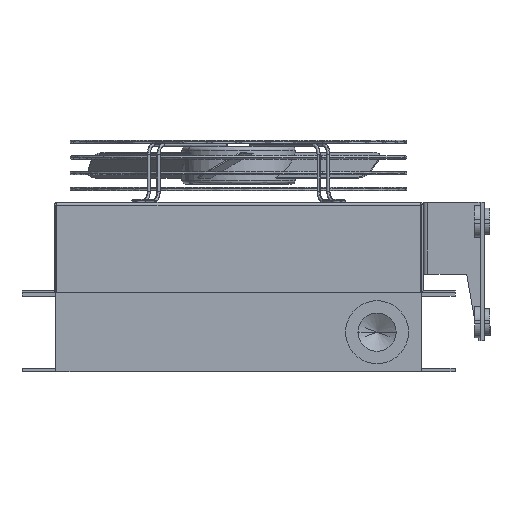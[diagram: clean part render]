
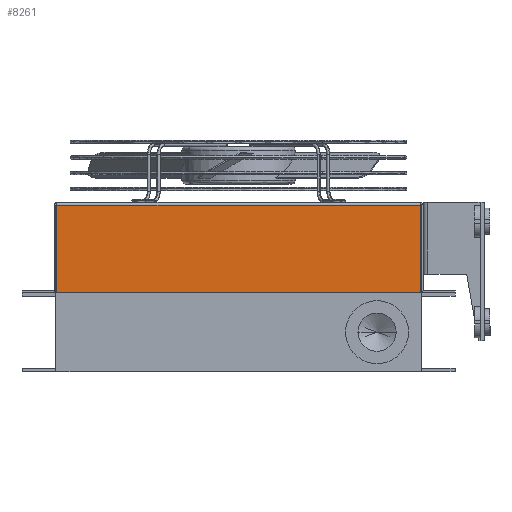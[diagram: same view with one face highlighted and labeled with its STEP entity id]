
A CAD part, left-side view. The second image highlights one B-rep face of the part: STEP entity #8261.
In plain terms, the highlighted planar face has unit normal (-1, 0, 0) as drawn and (1, 0, 0) by its records, which use the part's own axes.
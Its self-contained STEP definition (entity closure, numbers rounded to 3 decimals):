
#655 = ORIENTED_EDGE ( 'NONE', *, *, #14119, .F. ) ;
#1333 = CARTESIAN_POINT ( 'NONE',  ( 156.5, -144.263, 71.5 ) ) ;
#1609 = CARTESIAN_POINT ( 'NONE',  ( 156.5, 144.263, 1.5 ) ) ;
#2672 = EDGE_CURVE ( 'NONE', #10552, #18492, #12736, .T. ) ;
#3004 = DIRECTION ( 'NONE',  ( 0., 0., -1. ) ) ;
#3208 = FACE_OUTER_BOUND ( 'NONE', #9797, .T. ) ;
#4048 = CARTESIAN_POINT ( 'NONE',  ( 156.5, 144.263, 71.5 ) ) ;
#4624 = DIRECTION ( 'NONE',  ( 0., 0., -1. ) ) ;
#6303 = DIRECTION ( 'NONE',  ( 0., -1., 0. ) ) ;
#6880 = VECTOR ( 'NONE', #8574, 1000. ) ;
#7562 = LINE ( 'NONE', #7911, #11131 ) ;
#7911 = CARTESIAN_POINT ( 'NONE',  ( 156.5, 144.263, 2.237 ) ) ;
#8261 = ADVANCED_FACE ( 'NONE', ( #3208 ), #13495, .T. ) ;
#8574 = DIRECTION ( 'NONE',  ( 0., 1., 0. ) ) ;
#8992 = DIRECTION ( 'NONE',  ( 1., 0., 0. ) ) ;
#9080 = EDGE_CURVE ( 'NONE', #18492, #11693, #12964, .T. ) ;
#9197 = VECTOR ( 'NONE', #4624, 1000. ) ;
#9684 = VERTEX_POINT ( 'NONE', #12959 ) ;
#9797 = EDGE_LOOP ( 'NONE', ( #18284, #18277, #11257, #655 ) ) ;
#10552 = VERTEX_POINT ( 'NONE', #14780 ) ;
#11131 = VECTOR ( 'NONE', #6303, 1000. ) ;
#11257 = ORIENTED_EDGE ( 'NONE', *, *, #2672, .F. ) ;
#11693 = VERTEX_POINT ( 'NONE', #4048 ) ;
#12736 = LINE ( 'NONE', #19111, #13419 ) ;
#12959 = CARTESIAN_POINT ( 'NONE',  ( 156.5, 144.263, 2.237 ) ) ;
#12964 = LINE ( 'NONE', #15699, #6880 ) ;
#13419 = VECTOR ( 'NONE', #14565, 1000. ) ;
#13495 = PLANE ( 'NONE',  #19051 ) ;
#14119 = EDGE_CURVE ( 'NONE', #9684, #10552, #7562, .T. ) ;
#14565 = DIRECTION ( 'NONE',  ( 0., 0., 1. ) ) ;
#14780 = CARTESIAN_POINT ( 'NONE',  ( 156.5, -144.263, 2.237 ) ) ;
#15699 = CARTESIAN_POINT ( 'NONE',  ( 156.5, 144.263, 71.5 ) ) ;
#16230 = EDGE_CURVE ( 'NONE', #11693, #9684, #16964, .T. ) ;
#16515 = CARTESIAN_POINT ( 'NONE',  ( 156.5, 144.263, 1.5 ) ) ;
#16964 = LINE ( 'NONE', #1609, #9197 ) ;
#18277 = ORIENTED_EDGE ( 'NONE', *, *, #9080, .F. ) ;
#18284 = ORIENTED_EDGE ( 'NONE', *, *, #16230, .F. ) ;
#18492 = VERTEX_POINT ( 'NONE', #1333 ) ;
#19051 = AXIS2_PLACEMENT_3D ( 'NONE', #16515, #8992, #3004 ) ;
#19111 = CARTESIAN_POINT ( 'NONE',  ( 156.5, -144.263, 71.5 ) ) ;
